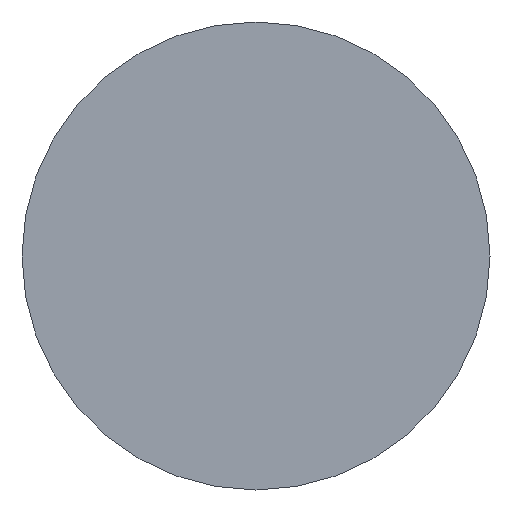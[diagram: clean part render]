
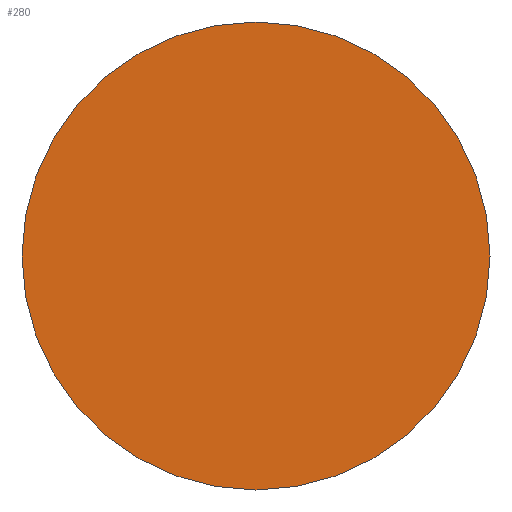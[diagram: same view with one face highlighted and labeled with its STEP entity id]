
A CAD part, left-side view. The second image highlights one B-rep face of the part: STEP entity #280.
In plain terms, the highlighted planar face has unit normal (-1, 0, 0).
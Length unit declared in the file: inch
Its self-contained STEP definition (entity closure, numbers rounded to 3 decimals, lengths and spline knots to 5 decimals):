
#22 = VERTEX_POINT ( 'NONE', #69 ) ;
#24 = DIRECTION ( 'NONE',  ( 0., -1., 0. ) ) ;
#45 = CIRCLE ( 'NONE', #507, 0.0335 ) ;
#54 = PLANE ( 'NONE',  #317 ) ;
#58 = CARTESIAN_POINT ( 'NONE',  ( -0.069, 0.0335, 0. ) ) ;
#67 = EDGE_CURVE ( 'NONE', #22, #186, #45, .T. ) ;
#69 = CARTESIAN_POINT ( 'NONE',  ( -0.069, 0., 0. ) ) ;
#162 = DIRECTION ( 'NONE',  ( -1., 0., 0. ) ) ;
#184 = FACE_OUTER_BOUND ( 'NONE', #550, .T. ) ;
#186 = VERTEX_POINT ( 'NONE', #227 ) ;
#204 = DIRECTION ( 'NONE',  ( 0., -1., 0. ) ) ;
#227 = CARTESIAN_POINT ( 'NONE',  ( -0.069, 0.067, 0. ) ) ;
#275 = CARTESIAN_POINT ( 'NONE',  ( -0.069, 0.0335, 0. ) ) ;
#277 = DIRECTION ( 'NONE',  ( 1., 0., 0. ) ) ;
#280 = ADVANCED_FACE ( 'NONE', ( #184 ), #54, .F. ) ;
#282 = CIRCLE ( 'NONE', #566, 0.0335 ) ;
#317 = AXIS2_PLACEMENT_3D ( 'NONE', #275, #277, #318 ) ;
#318 = DIRECTION ( 'NONE',  ( 0., 1., 0. ) ) ;
#420 = DIRECTION ( 'NONE',  ( -1., 0., 0. ) ) ;
#426 = CARTESIAN_POINT ( 'NONE',  ( -0.069, 0.0335, 0. ) ) ;
#455 = ORIENTED_EDGE ( 'NONE', *, *, #67, .T. ) ;
#491 = ORIENTED_EDGE ( 'NONE', *, *, #537, .T. ) ;
#507 = AXIS2_PLACEMENT_3D ( 'NONE', #426, #162, #204 ) ;
#537 = EDGE_CURVE ( 'NONE', #186, #22, #282, .T. ) ;
#550 = EDGE_LOOP ( 'NONE', ( #455, #491 ) ) ;
#566 = AXIS2_PLACEMENT_3D ( 'NONE', #58, #420, #24 ) ;
